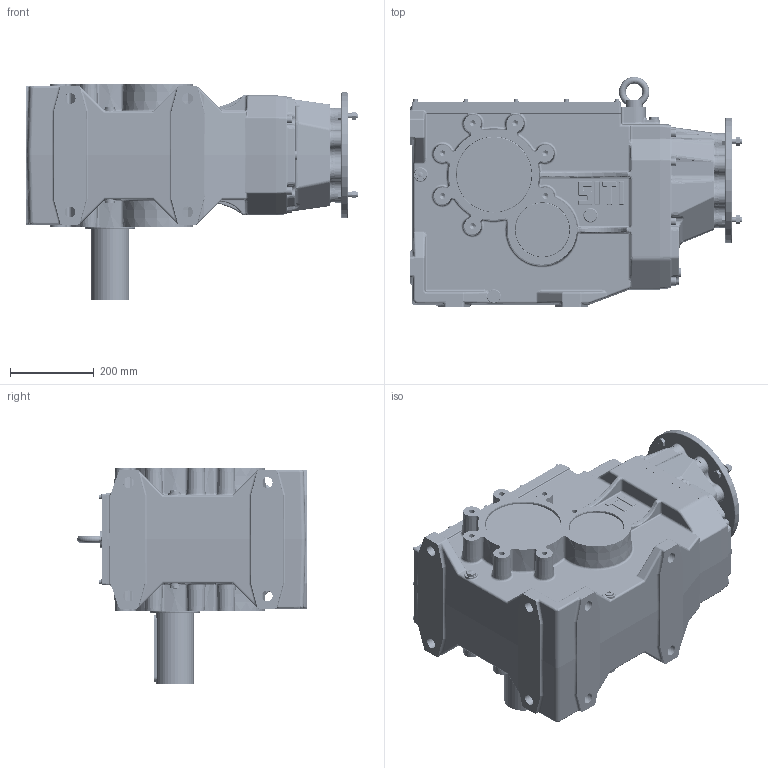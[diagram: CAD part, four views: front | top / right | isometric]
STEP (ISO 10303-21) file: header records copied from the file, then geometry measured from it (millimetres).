
FILE_DESCRIPTION((''),'2;1');
FILE_NAME('O:\Figurini\Figurini BH\3D\160\MBH 160 MS-A PAM 132 B5.stp','2013-05-17T14:29:56',('d.iannaccio'),(''),'Autodesk Inventor 2012','Autodesk Inventor 2012','');
FILE_SCHEMA(('AUTOMOTIVE_DESIGN { 1 0 10303 214 1 1 1 1 }'));
Length unit declared in the file: millimetre
Products named in the file (1): MBH_160 MS-A PAM 132 B5
Bounding box: 791 x 547.93 x 515 mm (x, y, z)
Volume: 27310984.4 mm3; surface area: 3469082 mm2
Topology: 71 solids, 73 shells, 4151 faces, 9825 edges, 5815 vertices
Faces by surface type: cylinder 1177, plane 1155, bspline 818, torus 490, cone 404, sphere 107
Full cylindrical faces by diameter (mm): 1.5 x1, 4.917 x12, 6 x24, 6.4 x12, 7 x12, 10 x12, 10.106 x16, 11 x2, 12 x54, 12.5 x14, 13 x16, 13.835 x14, 14 x4, 14.95 x8, 17.25 x2, 17.294 x3, 18 x16, 20 x2, 20.5 x16, 21 x2, 22 x1, 24 x1, 24.95 x1, 25 x2, 26 x9, 30 x5, 40 x1, 40.41 x1, 46 x1, 72 x1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
Entity records: 154225 total; most frequent: CARTESIAN_POINT 62392, DIRECTION 17860, ORIENTED_EDGE 17622, EDGE_CURVE 8811, AXIS2_PLACEMENT_3D 7553, VERTEX_POINT 5573, EDGE_LOOP 5050, STYLED_ITEM 4221
